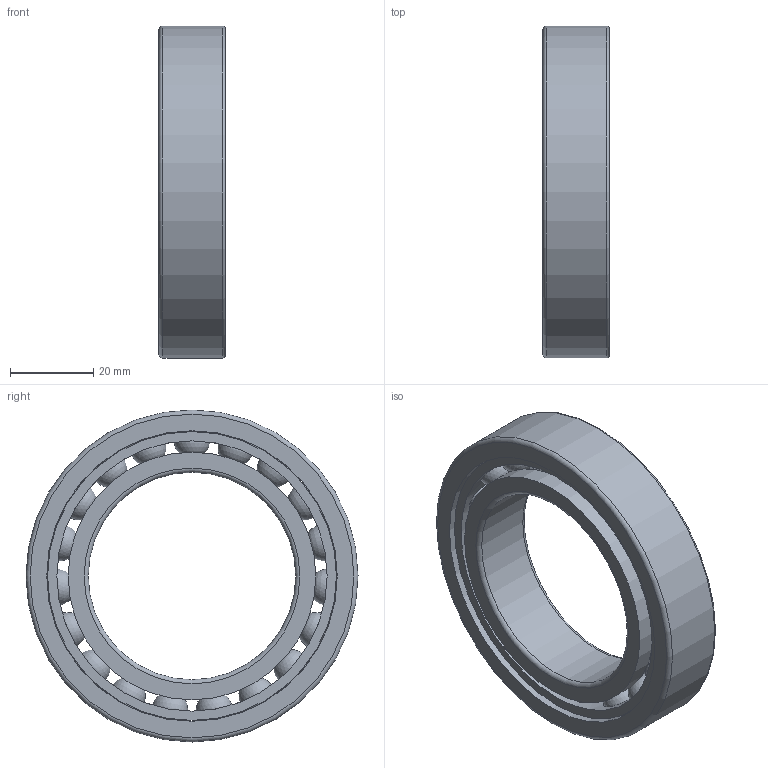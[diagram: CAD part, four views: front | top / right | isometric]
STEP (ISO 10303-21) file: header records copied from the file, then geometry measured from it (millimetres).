
FILE_DESCRIPTION(/* description */ (''),/* implementation_level */ '2;1');
FILE_NAME(/* name */ 'S_6010_TA.step',/* time_stamp */ '2013-03-06T14:43:29+01:00',/* author */ ('Marian'),/* organization */ ('GMN'),/* preprocessor_version */ 'ST-DEVELOPER v11',/* originating_system */ 'SIEMENS UGS NX 6.0',/* authorisation */ '');
FILE_SCHEMA (('CONFIG_CONTROL_DESIGN'));
Length unit declared in the file: millimetre
Products named in the file (1): S_6010_TA
Bounding box: 16 x 80 x 80 mm (x, y, z)
Volume: 36245.3 mm3; surface area: 26597 mm2
Topology: 22 solids, 22 shells, 58 faces, 148 edges, 96 vertices
Faces by surface type: cylinder 26, sphere 19, torus 6, plane 6, cone 1
Full cylindrical faces by diameter (mm): 8.931 x19, 50 x1, 59.7 x2, 65.111 x1, 69.6 x1, 70 x1, 80 x1
Entity records: 1904 total; most frequent: CARTESIAN_POINT 840, DIRECTION 158, FACE_BOUND 135, EDGE_LOOP 116, ORIENTED_EDGE 116, AXIS2_PLACEMENT_3D 79, VERTEX_POINT 77, EDGE_CURVE 58
